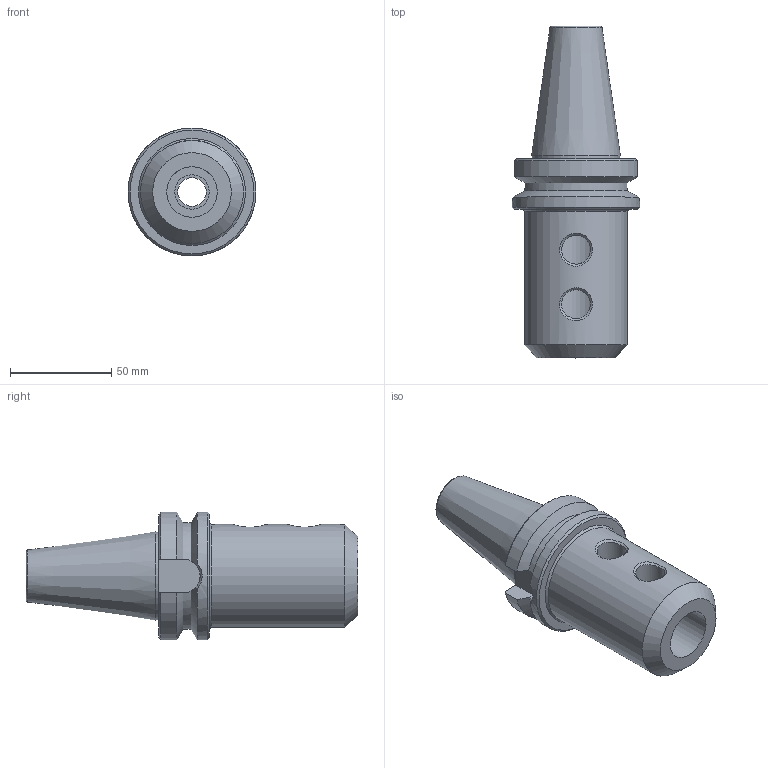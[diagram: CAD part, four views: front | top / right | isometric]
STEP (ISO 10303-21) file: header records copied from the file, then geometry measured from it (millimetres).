
FILE_DESCRIPTION(/* description */ (''),/* implementation_level */ '2;1');
FILE_NAME(/* name */ 'Z:\Проектный отдел\Влад\Фрезерные патроны\BT40-SLN25-100L.stp',/* time_stamp */ '2023-03-29T14:43:28+03:00',/* author */ ('инженер'),/* organization */ (''),/* preprocessor_version */ 'ST-DEVELOPER v18',/* originating_system */ 'Autodesk Inventor 2020',/* authorisation */ '');
FILE_SCHEMA (('AUTOMOTIVE_DESIGN { 1 0 10303 214 3 1 1 }'));
Length unit declared in the file: millimetre
Products named in the file (1): BT40-SLN25-100L
Bounding box: 63.3 x 164.3 x 63.3 mm (x, y, z)
Volume: 213540.5 mm3; surface area: 40712.3 mm2
Topology: 1 solids, 1 shells, 44 faces, 125 edges, 89 vertices
Faces by surface type: cylinder 15, plane 14, cone 10, bspline 4, torus 1
Full cylindrical faces by diameter (mm): 14.1 x1, 14.3 x2, 17 x2, 25 x1, 43.3 x1, 51 x1, 63.3 x1
Entity records: 2057 total; most frequent: CARTESIAN_POINT 875, ORIENTED_EDGE 250, DIRECTION 225, EDGE_CURVE 125, AXIS2_PLACEMENT_3D 94, VERTEX_POINT 89, EDGE_LOOP 56, CIRCLE 53
